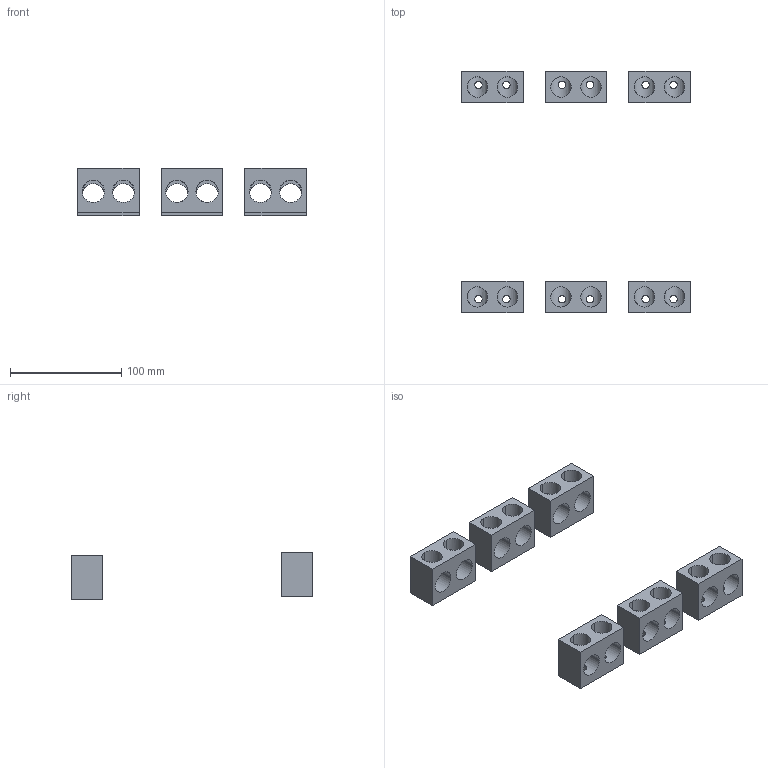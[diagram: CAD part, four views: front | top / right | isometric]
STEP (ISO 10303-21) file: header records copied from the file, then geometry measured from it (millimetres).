
FILE_DESCRIPTION (( 'STEP AP214' ), '1' );
FILE_NAME ('ÂÀ57-39 êîìïëåêò çàæèìîâ 2õ185 (êîëîäêà) (3).STEP', '2023-08-07T12:44:32', ( '' ), ( '' ), 'SwSTEP 2.0', 'SolidWorks 2018', '' );
FILE_SCHEMA (( 'AUTOMOTIVE_DESIGN' ));
Length unit declared in the file: millimetre
Products named in the file (1): ÂÀ57-39 êîìïëåêò çàæèìîâ 2õ185 (êîëîäêà) (3)
Bounding box: 205 x 216.4 x 43 mm (x, y, z)
Volume: 221329.6 mm3; surface area: 75959.5 mm2
Topology: 6 solids, 6 shells, 108 faces, 288 edges, 192 vertices
Faces by surface type: cylinder 72, plane 36
Entity records: 6683 total; most frequent: CARTESIAN_POINT 2569, ORIENTED_EDGE 576, DIRECTION 554, EDGE_CURVE 288, AXIS2_PLACEMENT_3D 205, VERTEX_POINT 192, EDGE_LOOP 180, VECTOR 144
